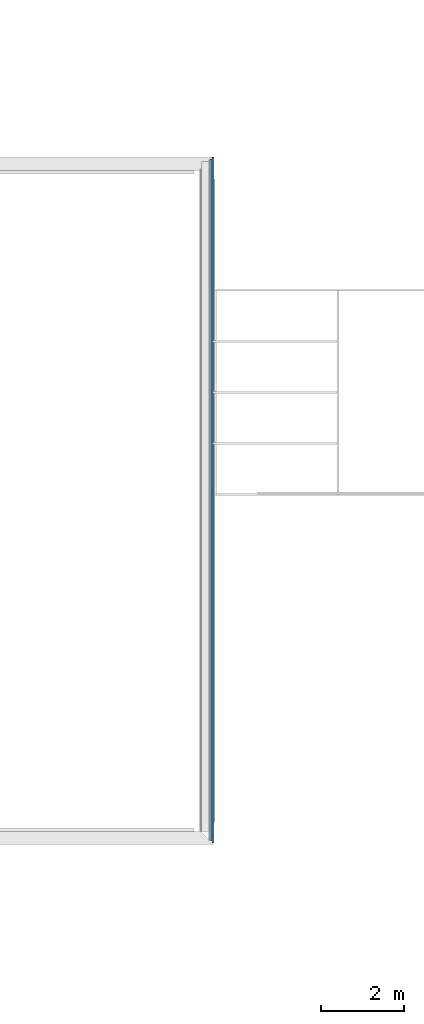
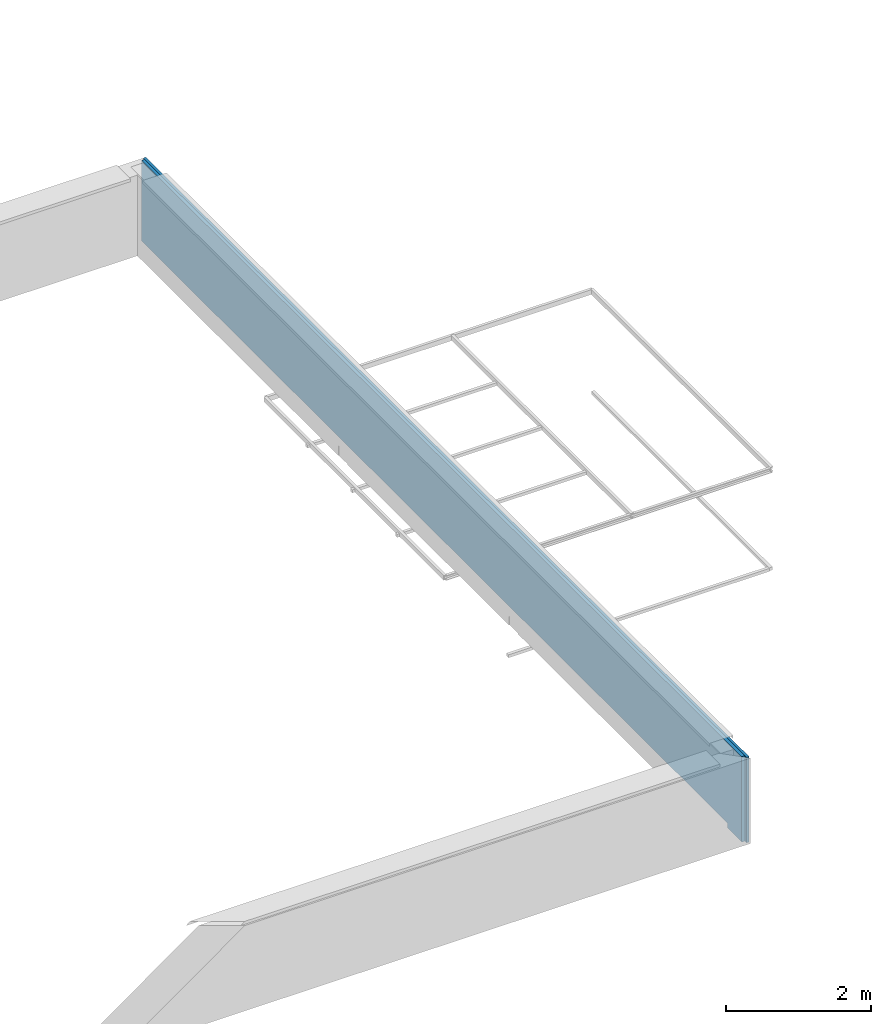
# One storey, part 7 of 8: 2 building element parts, 1 element without a shape of its own.
"""IFC2X3 building model written with IfcOpenShell, lengths in metres."""

from ifc_helpers import new_model, entity, si_unit, converted_unit, derived_unit, money_unit, direction, frame, origin_with_axes, place, context, subcontext, project, spatial, polyline, outline, extrude, boolean, faceted_brep, material, type_object, element, aggregate, save


model = new_model("IFC2X3")

# Units and contexts
model_context = context("Model", 3, precision=1e-05, world=origin_with_axes(), true_north=direction((0.0, 1.0)))
body_context = subcontext(model_context, "Body", "Model", "MODEL_VIEW")
ifc_project = project(units=[si_unit("LENGTHUNIT", "METRE"), si_unit("AREAUNIT", "SQUARE_METRE"), si_unit("VOLUMEUNIT", "CUBIC_METRE"), converted_unit("PLANEANGLEUNIT", "DEGREE", entity("IfcPlaneAngleMeasure", 0.0174532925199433), si_unit("PLANEANGLEUNIT", "RADIAN"), dimensions=[0, 0, 0, 0, 0, 0, 0]), money_unit("EUR"), converted_unit("TIMEUNIT", "Year", entity("IfcTimeMeasure", 31557600.0), si_unit("TIMEUNIT", "SECOND"), dimensions=[0, 0, 1, 0, 0, 0, 0]), si_unit("MASSUNIT", "GRAM", prefix="KILO"), si_unit("THERMODYNAMICTEMPERATUREUNIT", "DEGREE_CELSIUS"), si_unit("LUMINOUSINTENSITYUNIT", "LUMEN"), si_unit("ENERGYUNIT", "JOULE", prefix="MEGA"), derived_unit("THERMALCONDUCTANCEUNIT", [(si_unit("POWERUNIT", "WATT"), 1), (si_unit("LENGTHUNIT", "METRE"), -1), (si_unit("THERMODYNAMICTEMPERATUREUNIT", "KELVIN"), -1)]), derived_unit("SPECIFICHEATCAPACITYUNIT", [(si_unit("ENERGYUNIT", "JOULE"), 1), (si_unit("MASSUNIT", "GRAM", prefix="KILO"), -1), (si_unit("THERMODYNAMICTEMPERATUREUNIT", "KELVIN"), -1)]), derived_unit("MASSDENSITYUNIT", [(si_unit("MASSUNIT", "GRAM", prefix="KILO"), 1), (si_unit("VOLUMEUNIT", "CUBIC_METRE"), -1)])], contexts=[model_context])

# Site, building, storey
site_placement = place(None, origin_with_axes())
site = spatial("IfcSite", under=ifc_project, at=site_placement, Name="Site", CompositionType="ELEMENT")
building_placement = place(site_placement, origin_with_axes())
building = spatial("IfcBuilding", under=site, at=building_placement, Name="Bâtiment", CompositionType="ELEMENT")
storey_placement = place(building_placement, frame((0.0, 0.0, 7.12), z_axis=(0.0, 0.0, 1.0), x_axis=(1.0, 0.0, 0.0)))
storey = spatial("IfcBuildingStorey", under=building, at=storey_placement, Name="Combles", CompositionType="ELEMENT", Elevation=7.12)

# Wall, building element parts
wall_type = type_object("IfcWallType", Name="*MACONNERIE BARDAGE METAL Acrotère 318", PredefinedType="NOTDEFINED")
wall_placement = place(storey_placement, frame((54.20199999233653, -27.06756215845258, -0.334784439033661), z_axis=(0.0, 0.0, 1.0), x_axis=(0.0, 1.0, 0.0)))
wall = element("IfcWall", 1, at=wall_placement, inside=storey, type_object=wall_type, Name="Mur maçonné + ITI + véture métallique")
ifc_material_1 = material(Name="Divers - Vide faux plafond")
building_element_part_1_placement = place(wall_placement, origin_with_axes())
solid_1 = boolean("DIFFERENCE", boolean("DIFFERENCE", boolean("DIFFERENCE", boolean("DIFFERENCE", boolean("DIFFERENCE", boolean("DIFFERENCE", boolean("DIFFERENCE", boolean("DIFFERENCE", extrude(outline(polyline([(-0.3679999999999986, -0.328000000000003), (16.28800000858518, -0.328000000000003), (16.28800000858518, -0.2779999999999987), (-0.3679999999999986, -0.2779999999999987), (-0.3679999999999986, -0.328000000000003)])), origin_with_axes(), (0.0, 0.0, 1.0), 1.434784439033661), faceted_brep([(-0.05000000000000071, -0.06799999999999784, 0.0), (-0.04999999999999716, -0.06799999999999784, 1.434784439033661), (-0.3679999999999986, -0.06799999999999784, 1.434784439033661), (-0.3679999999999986, -0.06799999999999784, 0.0), (-0.05000000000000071, -0.04999999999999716, 1.434784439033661), (-0.05000000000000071, -0.04999999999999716, 0.0), (-0.3679999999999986, -0.04999999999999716, 1.434784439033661), (-0.3679999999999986, -0.04999999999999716, 0.0)], [[[0, 1, 2, 3]], [[4, 1, 0, 5]], [[1, 4, 6, 2]], [[6, 7, 3, 2]], [[5, 0, 3, 7]], [[4, 5, 7, 6]]])), faceted_brep([(15.98800000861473, -0.04999999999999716, 1.434784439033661), (15.98800000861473, -0.06799999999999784, 1.434784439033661), (16.28800000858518, -0.06799999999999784, 1.434784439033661), (16.28800000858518, -0.04999999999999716, 1.434784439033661), (15.98800000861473, -0.06799999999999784, 0.08067000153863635), (15.98800000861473, -0.04999999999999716, 0.08067000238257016), (0.109999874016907, -0.06799999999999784, 0.08067000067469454), (0.109999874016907, -0.06799999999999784, 0.0), (16.28800000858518, -0.06799999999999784, 0.0), (15.92000000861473, -0.06799999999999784, 0.08067000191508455), (16.28800000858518, -0.04999999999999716, 0.0), (0.109999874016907, -0.04999999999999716, 0.0), (0.109999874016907, -0.04999999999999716, 0.08067000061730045), (5.484997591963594, -0.04999999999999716, 0.08067000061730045), (5.484997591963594, -0.04999999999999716, 0.2275174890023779), (5.734997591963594, -0.04999999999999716, 0.2275174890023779), (5.734997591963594, -0.04999999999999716, 0.0806700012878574), (10.18499765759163, -0.04999999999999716, 0.0806700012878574), (10.18499765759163, -0.04999999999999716, 0.2510174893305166), (10.43499765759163, -0.04999999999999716, 0.2510174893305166), (10.43499765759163, -0.04999999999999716, 0.08067000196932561), (15.92000000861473, -0.04999999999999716, 0.08067000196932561), (10.43499765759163, -0.05799999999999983, 0.08067000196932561), (10.18499765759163, -0.05799999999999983, 0.0806700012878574), (5.734997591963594, -0.05799999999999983, 0.0806700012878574), (5.484997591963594, -0.05799999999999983, 0.08067000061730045), (5.484997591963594, -0.05799999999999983, 0.2275174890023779), (5.734997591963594, -0.05799999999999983, 0.2275174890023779), (10.18499765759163, -0.05799999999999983, 0.2510174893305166), (10.43499765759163, -0.05799999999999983, 0.2510174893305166)], [[[0, 1, 2, 3]], [[4, 1, 0, 5]], [[6, 7, 8, 2, 1, 4, 9]], [[2, 8, 10, 3]], [[5, 0, 3, 10, 11, 12, 13, 14, 15, 16, 17, 18, 19, 20, 21]], [[9, 4, 5, 21]], [[7, 6, 12, 11]], [[7, 11, 10, 8]], [[6, 9, 21, 20, 22, 23, 17, 16, 24, 25, 13, 12]], [[14, 13, 25, 26]], [[15, 14, 26, 27]], [[16, 15, 27, 24]], [[18, 17, 23, 28]], [[19, 18, 28, 29]], [[20, 19, 29, 22]], [[22, 29, 28, 23]], [[24, 27, 26, 25]]])), faceted_brep([(-0.06800000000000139, -0.2680000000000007, 0.0), (-0.06800000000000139, -0.2680000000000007, 1.434784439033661), (-0.3679999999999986, -0.2680000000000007, 1.434784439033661), (-0.3679999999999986, -0.2680000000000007, 0.0), (-0.06800000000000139, -0.06799999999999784, 1.434784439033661), (-0.06800000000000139, -0.06799999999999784, 0.0), (-0.3679999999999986, -0.06799999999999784, 1.434784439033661), (-0.3679999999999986, -0.06799999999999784, 0.0)], [[[0, 1, 2, 3]], [[4, 1, 0, 5]], [[1, 4, 6, 2]], [[2, 6, 7, 3]], [[5, 0, 3, 7]], [[4, 5, 7, 6]]])), faceted_brep([(16.18800000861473, -0.06799999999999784, 1.434784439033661), (16.18800000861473, -0.2680000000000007, 1.434784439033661), (16.28800000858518, -0.2680000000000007, 1.434784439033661), (16.28800000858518, -0.06799999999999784, 1.434784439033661), (16.18800000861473, -0.2680000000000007, 0.08067000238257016), (16.18800000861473, -0.06799999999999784, 0.08067000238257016), (0.109999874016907, -0.2680000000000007, 0.08067000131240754), (0.109999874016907, -0.2680000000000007, 0.0), (16.28800000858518, -0.2680000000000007, 0.0), (15.92000000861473, -0.2680000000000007, 0.08067000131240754), (16.28800000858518, -0.06799999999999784, 0.0), (0.109999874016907, -0.06799999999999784, 0.0), (0.109999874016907, -0.06799999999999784, 0.08067000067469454), (15.92000000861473, -0.06799999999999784, 0.08067000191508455), (15.98800000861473, -0.06799999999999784, 0.08067000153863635)], [[[0, 1, 2, 3]], [[4, 1, 0, 5]], [[6, 7, 8, 2, 1, 4, 9]], [[3, 2, 8, 10]], [[5, 0, 3, 10, 11, 12, 13, 14]], [[9, 4, 5, 14, 13]], [[7, 6, 12, 11]], [[7, 11, 10, 8]], [[6, 9, 13, 12]]])), faceted_brep([(16.28800000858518, -0.2779999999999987, 1.434784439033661), (16.28800000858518, -0.2680000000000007, 1.434784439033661), (16.19800000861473, -0.2680000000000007, 1.434784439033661), (16.19800000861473, -0.2779999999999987, 1.434784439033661), (16.28800000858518, -0.2680000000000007, 0.0), (16.28800000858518, -0.2779999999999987, 0.0), (0.109999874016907, -0.2680000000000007, 0.0806700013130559), (15.92000000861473, -0.2680000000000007, 0.0806700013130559), (16.19800000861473, -0.2680000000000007, 0.08067000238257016), (0.109999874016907, -0.2680000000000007, 0.0), (16.19800000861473, -0.2779999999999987, 0.08067000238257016), (15.92000000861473, -0.2779999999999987, 0.0806700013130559), (0.109999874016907, -0.2779999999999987, 0.0806700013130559), (0.109999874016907, -0.2779999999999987, 0.0)], [[[0, 1, 2, 3]], [[4, 1, 0, 5]], [[6, 7, 8, 2, 1, 4, 9]], [[2, 8, 10, 3]], [[10, 11, 12, 13, 5, 0, 3]], [[4, 5, 13, 9]], [[7, 6, 12, 11]], [[8, 7, 11, 10]], [[6, 9, 13, 12]]])), faceted_brep([(-0.3679999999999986, -0.2779999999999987, 0.0), (-0.2680000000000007, -0.2779999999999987, 0.0), (-0.2680000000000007, -0.2779999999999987, 1.434784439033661), (-0.3679999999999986, -0.2779999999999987, 1.434784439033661), (-0.3679999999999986, -0.2680000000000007, 0.0), (-0.2680000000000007, -0.2680000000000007, 0.0), (-0.2680000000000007, -0.2680000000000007, 1.434784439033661), (-0.3679999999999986, -0.2680000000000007, 1.434784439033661)], [[[0, 1, 2, 3]], [[4, 5, 1, 0]], [[5, 6, 2, 1]], [[3, 2, 6, 7]], [[3, 7, 4, 0]], [[7, 6, 5, 4]]])), faceted_brep([(-0.3679999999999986, -0.328000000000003, 0.0), (-0.2779999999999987, -0.328000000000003, 0.0), (-0.2779999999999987, -0.328000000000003, 1.434784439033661), (-0.3679999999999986, -0.328000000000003, 1.434784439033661), (-0.3679999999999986, -0.2779999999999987, 0.0), (-0.2779999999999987, -0.2779999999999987, 0.0), (-0.2779999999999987, -0.2779999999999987, 1.434784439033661), (-0.3679999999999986, -0.2779999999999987, 1.434784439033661)], [[[0, 1, 2, 3]], [[4, 5, 1, 0]], [[5, 6, 2, 1]], [[3, 2, 6, 7]], [[0, 3, 7, 4]], [[7, 6, 5, 4]]])), faceted_brep([(16.28800000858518, -0.2779999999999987, 1.434784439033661), (16.24800000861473, -0.2779999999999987, 1.434784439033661), (16.24800000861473, -0.328000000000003, 1.434784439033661), (16.28800000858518, -0.328000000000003, 1.434784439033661), (15.92000000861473, -0.2779999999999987, 0.08067000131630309), (16.24800000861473, -0.2779999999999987, 0.08067000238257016), (16.28800000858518, -0.2779999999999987, 0.0), (0.109999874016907, -0.2779999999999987, 0.0), (0.109999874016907, -0.2779999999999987, 0.08067000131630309), (16.24800000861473, -0.328000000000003, 0.08067000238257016), (15.92000000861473, -0.328000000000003, 0.08067000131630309), (0.109999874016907, -0.328000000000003, 0.08067000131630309), (0.109999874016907, -0.328000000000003, 0.0), (16.28800000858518, -0.328000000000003, 0.0)], [[[0, 1, 2, 3]], [[4, 5, 1, 0, 6, 7, 8]], [[5, 9, 2, 1]], [[10, 11, 12, 13, 3, 2, 9]], [[6, 0, 3, 13]], [[4, 10, 9, 5]], [[13, 12, 7, 6]], [[7, 12, 11, 8]], [[8, 11, 10, 4]]]))
building_element_part_1 = element("IfcBuildingElementPart", 2, at=building_element_part_1_placement, material=ifc_material_1, Name="Divers - Vide faux plafond", context=body_context, shape_type="CSG", body=[
    boolean("DIFFERENCE", boolean("DIFFERENCE", solid_1, faceted_brep([(-0.3279999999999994, -0.3680000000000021, 0.0), (-0.3279999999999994, -0.3680000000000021, 1.434784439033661), (-0.3679999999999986, -0.3680000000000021, 1.434784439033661), (-0.3679999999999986, -0.3680000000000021, 0.0), (-0.3279999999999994, -0.328000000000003, 1.434784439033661), (-0.3279999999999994, -0.328000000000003, 0.0), (-0.3679999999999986, -0.328000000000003, 1.434784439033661), (-0.3679999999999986, -0.328000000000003, 0.0)], [[[0, 1, 2, 3]], [[4, 1, 0, 5]], [[1, 4, 6, 2]], [[2, 6, 7, 3]], [[5, 0, 3, 7]], [[4, 5, 7, 6]]])), faceted_brep([(16.28800000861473, -0.328000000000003, 0.08067000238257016), (16.28800000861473, -0.3680000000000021, 0.08067000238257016), (16.28800000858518, -0.3680000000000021, 0.0), (16.28800000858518, -0.328000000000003, 0.0), (15.92000000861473, -0.3680000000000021, 0.0806700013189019), (15.92000000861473, -0.328000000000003, 0.0806700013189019), (0.109999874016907, -0.3680000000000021, 0.0806700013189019), (0.109999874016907, -0.3680000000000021, 0.0), (0.109999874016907, -0.328000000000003, 0.0), (0.109999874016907, -0.328000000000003, 0.0806700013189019)], [[[0, 1, 2, 3]], [[4, 1, 0, 5]], [[6, 7, 2, 1, 4]], [[7, 8, 3, 2]], [[5, 0, 3, 8, 9]], [[6, 4, 5, 9]], [[7, 6, 9, 8]]])),
])
ifc_material_2 = material(Name="*MÉTAL- BARDAGE")
building_element_part_2_placement = place(wall_placement, origin_with_axes())
solid_2 = boolean("DIFFERENCE", boolean("DIFFERENCE", boolean("DIFFERENCE", boolean("DIFFERENCE", boolean("DIFFERENCE", boolean("DIFFERENCE", boolean("DIFFERENCE", boolean("DIFFERENCE", extrude(outline(polyline([(-0.3679999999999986, -0.3680000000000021), (16.28800000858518, -0.3680000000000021), (16.28800000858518, -0.328000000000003), (-0.3679999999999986, -0.328000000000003), (-0.3679999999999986, -0.3680000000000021)])), origin_with_axes(), (0.0, 0.0, 1.0), 1.434784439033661), faceted_brep([(-0.05000000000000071, -0.06799999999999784, 0.0), (-0.04999999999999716, -0.06799999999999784, 1.434784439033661), (-0.3679999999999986, -0.06799999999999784, 1.434784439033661), (-0.3679999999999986, -0.06799999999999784, 0.0), (-0.05000000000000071, -0.04999999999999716, 1.434784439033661), (-0.05000000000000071, -0.04999999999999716, 0.0), (-0.3679999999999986, -0.04999999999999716, 1.434784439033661), (-0.3679999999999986, -0.04999999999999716, 0.0)], [[[0, 1, 2, 3]], [[4, 1, 0, 5]], [[1, 4, 6, 2]], [[6, 7, 3, 2]], [[5, 0, 3, 7]], [[4, 5, 7, 6]]])), faceted_brep([(15.98800000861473, -0.04999999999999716, 1.434784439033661), (15.98800000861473, -0.06799999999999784, 1.434784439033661), (16.28800000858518, -0.06799999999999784, 1.434784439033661), (16.28800000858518, -0.04999999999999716, 1.434784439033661), (15.98800000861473, -0.06799999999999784, 0.08067000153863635), (15.98800000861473, -0.04999999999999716, 0.08067000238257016), (0.109999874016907, -0.06799999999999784, 0.08067000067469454), (0.109999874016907, -0.06799999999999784, 0.0), (16.28800000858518, -0.06799999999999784, 0.0), (15.92000000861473, -0.06799999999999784, 0.08067000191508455), (16.28800000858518, -0.04999999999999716, 0.0), (0.109999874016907, -0.04999999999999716, 0.0), (0.109999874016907, -0.04999999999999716, 0.08067000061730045), (5.484997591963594, -0.04999999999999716, 0.08067000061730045), (5.484997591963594, -0.04999999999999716, 0.2275174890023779), (5.734997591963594, -0.04999999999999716, 0.2275174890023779), (5.734997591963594, -0.04999999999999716, 0.0806700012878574), (10.18499765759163, -0.04999999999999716, 0.0806700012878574), (10.18499765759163, -0.04999999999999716, 0.2510174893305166), (10.43499765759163, -0.04999999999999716, 0.2510174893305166), (10.43499765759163, -0.04999999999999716, 0.08067000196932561), (15.92000000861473, -0.04999999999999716, 0.08067000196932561), (10.43499765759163, -0.05799999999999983, 0.08067000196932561), (10.18499765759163, -0.05799999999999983, 0.0806700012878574), (5.734997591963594, -0.05799999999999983, 0.0806700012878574), (5.484997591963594, -0.05799999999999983, 0.08067000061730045), (5.484997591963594, -0.05799999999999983, 0.2275174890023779), (5.734997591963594, -0.05799999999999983, 0.2275174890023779), (10.18499765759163, -0.05799999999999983, 0.2510174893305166), (10.43499765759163, -0.05799999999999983, 0.2510174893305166)], [[[0, 1, 2, 3]], [[4, 1, 0, 5]], [[6, 7, 8, 2, 1, 4, 9]], [[2, 8, 10, 3]], [[5, 0, 3, 10, 11, 12, 13, 14, 15, 16, 17, 18, 19, 20, 21]], [[9, 4, 5, 21]], [[7, 6, 12, 11]], [[7, 11, 10, 8]], [[6, 9, 21, 20, 22, 23, 17, 16, 24, 25, 13, 12]], [[14, 13, 25, 26]], [[15, 14, 26, 27]], [[16, 15, 27, 24]], [[18, 17, 23, 28]], [[19, 18, 28, 29]], [[20, 19, 29, 22]], [[22, 29, 28, 23]], [[24, 27, 26, 25]]])), faceted_brep([(-0.06800000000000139, -0.2680000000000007, 0.0), (-0.06800000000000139, -0.2680000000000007, 1.434784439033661), (-0.3679999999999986, -0.2680000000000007, 1.434784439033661), (-0.3679999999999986, -0.2680000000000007, 0.0), (-0.06800000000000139, -0.06799999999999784, 1.434784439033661), (-0.06800000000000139, -0.06799999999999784, 0.0), (-0.3679999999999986, -0.06799999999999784, 1.434784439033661), (-0.3679999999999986, -0.06799999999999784, 0.0)], [[[0, 1, 2, 3]], [[4, 1, 0, 5]], [[1, 4, 6, 2]], [[2, 6, 7, 3]], [[5, 0, 3, 7]], [[4, 5, 7, 6]]])), faceted_brep([(16.18800000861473, -0.06799999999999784, 1.434784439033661), (16.18800000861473, -0.2680000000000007, 1.434784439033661), (16.28800000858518, -0.2680000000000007, 1.434784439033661), (16.28800000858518, -0.06799999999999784, 1.434784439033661), (16.18800000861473, -0.2680000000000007, 0.08067000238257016), (16.18800000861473, -0.06799999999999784, 0.08067000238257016), (0.109999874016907, -0.2680000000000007, 0.08067000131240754), (0.109999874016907, -0.2680000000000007, 0.0), (16.28800000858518, -0.2680000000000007, 0.0), (15.92000000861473, -0.2680000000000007, 0.08067000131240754), (16.28800000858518, -0.06799999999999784, 0.0), (0.109999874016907, -0.06799999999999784, 0.0), (0.109999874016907, -0.06799999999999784, 0.08067000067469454), (15.92000000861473, -0.06799999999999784, 0.08067000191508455), (15.98800000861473, -0.06799999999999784, 0.08067000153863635)], [[[0, 1, 2, 3]], [[4, 1, 0, 5]], [[6, 7, 8, 2, 1, 4, 9]], [[3, 2, 8, 10]], [[5, 0, 3, 10, 11, 12, 13, 14]], [[9, 4, 5, 14, 13]], [[7, 6, 12, 11]], [[7, 11, 10, 8]], [[6, 9, 13, 12]]])), faceted_brep([(16.28800000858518, -0.2779999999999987, 1.434784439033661), (16.28800000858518, -0.2680000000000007, 1.434784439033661), (16.19800000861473, -0.2680000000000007, 1.434784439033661), (16.19800000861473, -0.2779999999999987, 1.434784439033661), (16.28800000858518, -0.2680000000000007, 0.0), (16.28800000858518, -0.2779999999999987, 0.0), (0.109999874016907, -0.2680000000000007, 0.0806700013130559), (15.92000000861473, -0.2680000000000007, 0.0806700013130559), (16.19800000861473, -0.2680000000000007, 0.08067000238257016), (0.109999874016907, -0.2680000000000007, 0.0), (16.19800000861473, -0.2779999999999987, 0.08067000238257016), (15.92000000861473, -0.2779999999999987, 0.0806700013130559), (0.109999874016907, -0.2779999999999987, 0.0806700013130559), (0.109999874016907, -0.2779999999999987, 0.0)], [[[0, 1, 2, 3]], [[4, 1, 0, 5]], [[6, 7, 8, 2, 1, 4, 9]], [[2, 8, 10, 3]], [[10, 11, 12, 13, 5, 0, 3]], [[4, 5, 13, 9]], [[7, 6, 12, 11]], [[8, 7, 11, 10]], [[6, 9, 13, 12]]])), faceted_brep([(-0.3679999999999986, -0.2779999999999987, 0.0), (-0.2680000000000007, -0.2779999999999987, 0.0), (-0.2680000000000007, -0.2779999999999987, 1.434784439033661), (-0.3679999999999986, -0.2779999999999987, 1.434784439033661), (-0.3679999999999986, -0.2680000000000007, 0.0), (-0.2680000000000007, -0.2680000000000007, 0.0), (-0.2680000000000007, -0.2680000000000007, 1.434784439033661), (-0.3679999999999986, -0.2680000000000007, 1.434784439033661)], [[[0, 1, 2, 3]], [[4, 5, 1, 0]], [[5, 6, 2, 1]], [[3, 2, 6, 7]], [[3, 7, 4, 0]], [[7, 6, 5, 4]]])), faceted_brep([(-0.3679999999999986, -0.328000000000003, 0.0), (-0.2779999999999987, -0.328000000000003, 0.0), (-0.2779999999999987, -0.328000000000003, 1.434784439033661), (-0.3679999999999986, -0.328000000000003, 1.434784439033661), (-0.3679999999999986, -0.2779999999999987, 0.0), (-0.2779999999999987, -0.2779999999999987, 0.0), (-0.2779999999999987, -0.2779999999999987, 1.434784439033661), (-0.3679999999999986, -0.2779999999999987, 1.434784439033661)], [[[0, 1, 2, 3]], [[4, 5, 1, 0]], [[5, 6, 2, 1]], [[3, 2, 6, 7]], [[0, 3, 7, 4]], [[7, 6, 5, 4]]])), faceted_brep([(16.28800000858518, -0.2779999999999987, 1.434784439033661), (16.24800000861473, -0.2779999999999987, 1.434784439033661), (16.24800000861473, -0.328000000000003, 1.434784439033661), (16.28800000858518, -0.328000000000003, 1.434784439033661), (15.92000000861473, -0.2779999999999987, 0.08067000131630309), (16.24800000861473, -0.2779999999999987, 0.08067000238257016), (16.28800000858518, -0.2779999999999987, 0.0), (0.109999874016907, -0.2779999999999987, 0.0), (0.109999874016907, -0.2779999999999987, 0.08067000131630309), (16.24800000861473, -0.328000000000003, 0.08067000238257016), (15.92000000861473, -0.328000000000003, 0.08067000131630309), (0.109999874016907, -0.328000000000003, 0.08067000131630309), (0.109999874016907, -0.328000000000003, 0.0), (16.28800000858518, -0.328000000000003, 0.0)], [[[0, 1, 2, 3]], [[4, 5, 1, 0, 6, 7, 8]], [[5, 9, 2, 1]], [[10, 11, 12, 13, 3, 2, 9]], [[6, 0, 3, 13]], [[4, 10, 9, 5]], [[13, 12, 7, 6]], [[7, 12, 11, 8]], [[8, 11, 10, 4]]]))
building_element_part_2 = element("IfcBuildingElementPart", 3, at=building_element_part_2_placement, material=ifc_material_2, Name="*MÉTAL- BARDAGE", context=body_context, shape_type="CSG", body=[
    boolean("DIFFERENCE", boolean("DIFFERENCE", solid_2, faceted_brep([(-0.3279999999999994, -0.3680000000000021, 0.0), (-0.3279999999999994, -0.3680000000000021, 1.434784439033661), (-0.3679999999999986, -0.3680000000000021, 1.434784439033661), (-0.3679999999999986, -0.3680000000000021, 0.0), (-0.3279999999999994, -0.328000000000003, 1.434784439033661), (-0.3279999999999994, -0.328000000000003, 0.0), (-0.3679999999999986, -0.328000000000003, 1.434784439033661), (-0.3679999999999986, -0.328000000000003, 0.0)], [[[0, 1, 2, 3]], [[4, 1, 0, 5]], [[1, 4, 6, 2]], [[2, 6, 7, 3]], [[5, 0, 3, 7]], [[4, 5, 7, 6]]])), faceted_brep([(16.28800000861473, -0.328000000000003, 0.08067000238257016), (16.28800000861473, -0.3680000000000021, 0.08067000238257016), (16.28800000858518, -0.3680000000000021, 0.0), (16.28800000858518, -0.328000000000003, 0.0), (15.92000000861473, -0.3680000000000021, 0.0806700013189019), (15.92000000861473, -0.328000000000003, 0.0806700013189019), (0.109999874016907, -0.3680000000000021, 0.0806700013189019), (0.109999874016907, -0.3680000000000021, 0.0), (0.109999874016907, -0.328000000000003, 0.0), (0.109999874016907, -0.328000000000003, 0.0806700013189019)], [[[0, 1, 2, 3]], [[4, 1, 0, 5]], [[6, 7, 2, 1, 4]], [[7, 8, 3, 2]], [[5, 0, 3, 8, 9]], [[6, 4, 5, 9]], [[7, 6, 9, 8]]])),
])
aggregate(wall, [building_element_part_1, building_element_part_2])

save(model, "model.ifc")
